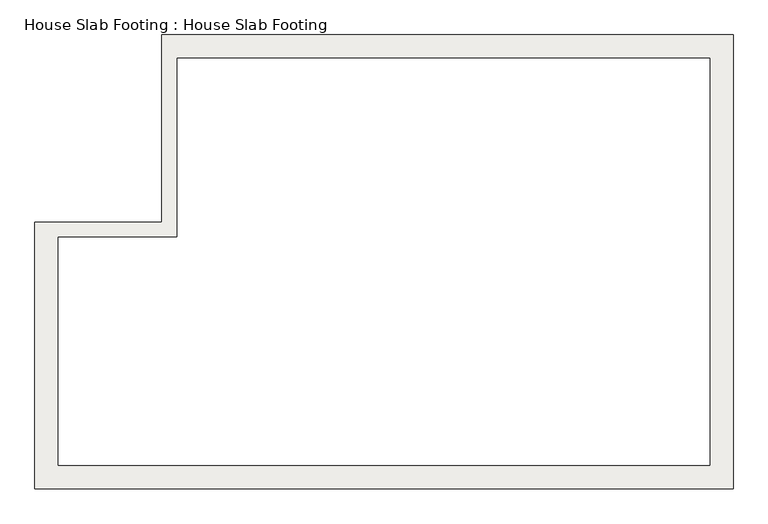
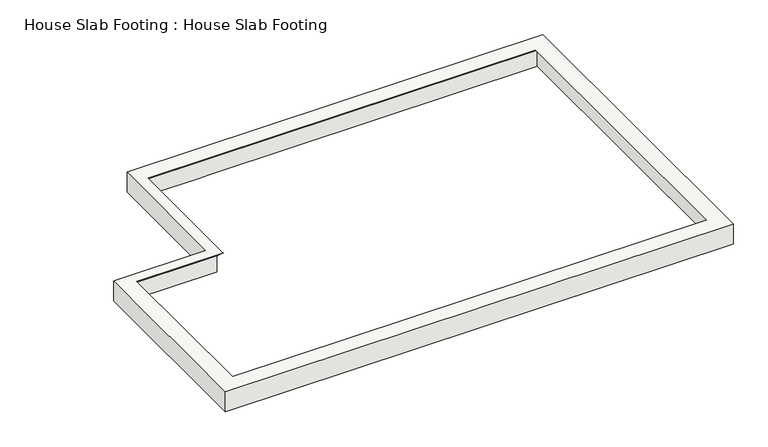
"""IFC4 building model written with IfcOpenShell, lengths in millimetres: slab geometry, House Slab Footing : House Slab Footing."""

from ifc_helpers import new_model, si_unit, origin, place, context, project, spatial, faceted_brep, source, transform, mapped, element, save


def house_slab_footing_house_slab_footing_6262e99d(model_context):
    return source(origin(), model_context, "Body", "Brep", [
        faceted_brep([(-13266.0678637, -4576.2650713, -101.6), (-13266.0678637, -4576.2650713, -609.6), (-1074.0678637, -4576.2650713, -609.6), (-1074.0678637, -4576.2650713, -558.8), (-1074.0678637, -4576.2650713, -114.3605851), (-1074.0678637, -4576.2650713, -101.6), (-12961.2678637, -4271.4650713, -203.2), (-12932.6928637, -4242.8900713, -174.625), (-12881.8928637, -4192.0900713, -123.825), (-12859.6678637, -4169.8650713, -101.6), (-1480.4678637, -4169.8650713, -101.6), (-1458.2428637, -4192.0900713, -123.825), (-1407.4428637, -4242.8900713, -174.625), (-1378.8678637, -4271.4650713, -203.2), (-1378.8678637, -4271.4650713, -609.6), (-12961.2678637, -4271.4650713, -609.6), (-1074.0678637, 3348.5349287, -609.6), (-1074.0678637, 3348.5349287, -101.6), (-1480.4678637, 2942.1349287, -101.6), (-1458.2428637, 2964.3599287, -123.825), (-1407.4428637, 3015.1599287, -174.625), (-1378.8678637, 3043.7349287, -203.2), (-1378.8678637, 3043.7349287, -609.6), (-11049.9178637, 3348.5349287, -609.6), (-11049.9178637, 3348.5349287, -101.6), (-10783.2178637, 2942.1349287, -101.6), (-10805.4428637, 2964.3599287, -123.825), (-10856.2428637, 3015.1599287, -174.625), (-10884.8178637, 3043.7349287, -203.2), (-10884.8178637, 3043.7349287, -609.6), (-9548.1428637, 3043.7349287, -609.6), (-9243.3428637, 3043.7349287, -609.6), (-10783.2178637, -188.4150713, -101.6), (-10805.4428637, -166.1900713, -123.825), (-10856.2428637, -115.3900713, -174.625), (-10884.8178637, -86.8150713, -203.2), (-10884.8178637, -86.8150713, -609.6), (-12859.6678637, -188.4150713, -101.6), (-12881.8928637, -166.1900713, -123.825), (-12932.6928637, -115.3900713, -174.625), (-12961.2678637, -86.8150713, -203.2), (-11291.2178637, -86.8150713, -203.2), (-11176.9178637, -86.8150713, -203.2), (-12961.2678637, -86.8150713, -609.6), (-13266.0678637, 78.2849287, -101.6), (-13266.0678637, 78.2849287, -609.6), (-11049.9178637, 78.2849287, -101.6), (-11049.9178637, 78.2849287, -609.6)], [[[0, 1, 2, 3, 4, 5]], [[6, 7, 8, 9, 10, 11, 12, 13]], [[6, 13, 14, 15]], [[5, 4, 3, 2, 16, 17]], [[13, 12, 11, 10, 18, 19, 20, 21]], [[14, 13, 21, 22]], [[17, 16, 23, 24]], [[21, 20, 19, 18, 25, 26, 27, 28]], [[22, 21, 28, 29, 30, 31]], [[28, 27, 26, 25, 32, 33, 34, 35]], [[29, 28, 35, 36]], [[35, 34, 33, 32, 37, 38, 39, 40, 41, 42]], [[36, 35, 42, 41, 40, 43]], [[1, 0, 44, 45]], [[0, 5, 17, 24, 46, 44], [10, 9, 37, 32, 25, 18]], [[9, 8, 7, 6, 40, 39, 38, 37]], [[6, 15, 43, 40]], [[2, 1, 45, 47, 23, 16], [15, 14, 22, 31, 30, 29, 36, 43]], [[46, 47, 45, 44]], [[47, 46, 24, 23]]]),
    ])


if __name__ == "__main__":
    model = new_model("IFC4")
    model_context = context("Model", 3, world=origin())
    ifc_project = project(units=[si_unit("LENGTHUNIT", "METRE", prefix="MILLI")], contexts=[model_context])
    site = spatial("IfcSite", under=ifc_project)
    building = spatial("IfcBuilding", under=site)
    placement = place(None, origin())
    house_slab_footing_house_slab_footing_shape = house_slab_footing_house_slab_footing_6262e99d(model_context)
    element("IfcSlab", 1, ObjectType="House Slab Footing : House Slab Footing", at=placement, inside=building, context=model_context, shape_type="MappedRepresentation", body=[
        mapped(house_slab_footing_house_slab_footing_shape, transform((0.0, 0.0, 0.0), x_axis=(1.0, 0.0, 0.0), y_axis=(0.0, 1.0, 0.0), z_axis=(0.0, 0.0, 1.0))),
    ])
    save(model, "model.ifc")
